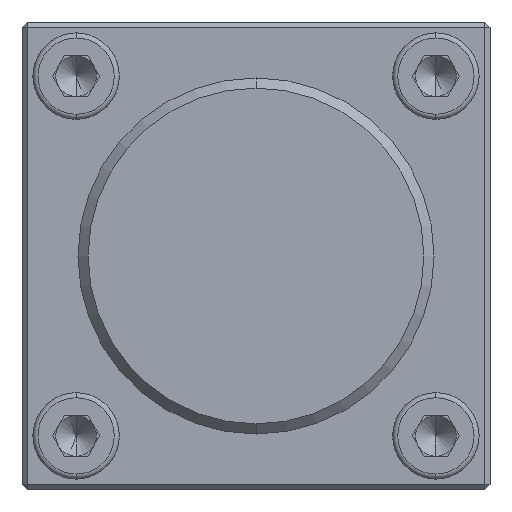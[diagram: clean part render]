
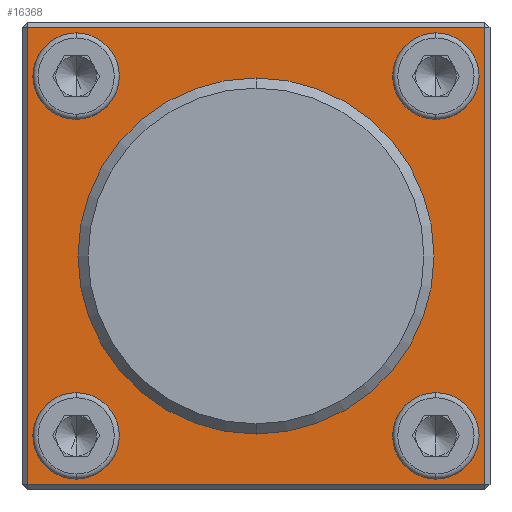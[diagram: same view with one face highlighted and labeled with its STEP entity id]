
A CAD part, left-side view. The second image highlights one B-rep face of the part: STEP entity #16368.
In plain terms, the highlighted planar face has unit normal (-1, 0, 0).
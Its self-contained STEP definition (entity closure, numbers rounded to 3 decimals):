
#11910 = VERTEX_POINT ( 'NONE', #38475 ) ;
#11911 = VERTEX_POINT ( 'NONE', #38476 ) ;
#11914 = VERTEX_POINT ( 'NONE', #38479 ) ;
#11915 = VERTEX_POINT ( 'NONE', #38480 ) ;
#11918 = VERTEX_POINT ( 'NONE', #38483 ) ;
#11919 = VERTEX_POINT ( 'NONE', #38484 ) ;
#11922 = VERTEX_POINT ( 'NONE', #38487 ) ;
#11923 = VERTEX_POINT ( 'NONE', #38488 ) ;
#11941 = VERTEX_POINT ( 'NONE', #38506 ) ;
#11942 = VERTEX_POINT ( 'NONE', #38507 ) ;
#11949 = VERTEX_POINT ( 'NONE', #38514 ) ;
#11950 = VERTEX_POINT ( 'NONE', #38515 ) ;
#11952 = VERTEX_POINT ( 'NONE', #38517 ) ;
#11954 = VERTEX_POINT ( 'NONE', #38519 ) ;
#12778 = EDGE_LOOP ( 'NONE', ( #17453, #17454 ) ) ;
#12779 = EDGE_LOOP ( 'NONE', ( #17456, #17455 ) ) ;
#12780 = EDGE_LOOP ( 'NONE', ( #17458, #17457 ) ) ;
#12781 = EDGE_LOOP ( 'NONE', ( #17460, #17459 ) ) ;
#12782 = EDGE_LOOP ( 'NONE', ( #17462, #17461 ) ) ;
#12783 = EDGE_LOOP ( 'NONE', ( #17464, #17463, #17465, #17451 ) ) ;
#16368 = ADVANCED_FACE ( 'NONE', ( #42786, #42789, #42791, #42792, #42794, #42795 ), #44255, .T. ) ;
#16741 = EDGE_CURVE ( 'NONE', #11910, #11911, #19579, .T. ) ;
#16745 = EDGE_CURVE ( 'NONE', #11914, #11915, #19581, .T. ) ;
#16749 = EDGE_CURVE ( 'NONE', #11918, #11919, #19583, .T. ) ;
#16753 = EDGE_CURVE ( 'NONE', #11922, #11923, #19585, .T. ) ;
#16777 = EDGE_CURVE ( 'NONE', #11941, #11942, #19595, .T. ) ;
#16785 = EDGE_CURVE ( 'NONE', #11950, #11949, #46438, .T. ) ;
#16788 = EDGE_CURVE ( 'NONE', #11952, #11950, #46447, .T. ) ;
#16791 = EDGE_CURVE ( 'NONE', #11954, #11952, #46456, .T. ) ;
#16794 = EDGE_CURVE ( 'NONE', #11949, #11954, #46465, .T. ) ;
#16795 = EDGE_CURVE ( 'NONE', #11911, #11910, #19598, .T. ) ;
#16796 = EDGE_CURVE ( 'NONE', #11915, #11914, #19599, .T. ) ;
#16797 = EDGE_CURVE ( 'NONE', #11919, #11918, #19600, .T. ) ;
#16798 = EDGE_CURVE ( 'NONE', #11923, #11922, #19601, .T. ) ;
#16799 = EDGE_CURVE ( 'NONE', #11942, #11941, #19602, .T. ) ;
#17451 = ORIENTED_EDGE ( 'NONE', *, *, #16788, .T. ) ;
#17453 = ORIENTED_EDGE ( 'NONE', *, *, #16741, .F. ) ;
#17454 = ORIENTED_EDGE ( 'NONE', *, *, #16795, .F. ) ;
#17455 = ORIENTED_EDGE ( 'NONE', *, *, #16796, .F. ) ;
#17456 = ORIENTED_EDGE ( 'NONE', *, *, #16745, .F. ) ;
#17457 = ORIENTED_EDGE ( 'NONE', *, *, #16797, .F. ) ;
#17458 = ORIENTED_EDGE ( 'NONE', *, *, #16749, .F. ) ;
#17459 = ORIENTED_EDGE ( 'NONE', *, *, #16798, .F. ) ;
#17460 = ORIENTED_EDGE ( 'NONE', *, *, #16753, .F. ) ;
#17461 = ORIENTED_EDGE ( 'NONE', *, *, #16799, .F. ) ;
#17462 = ORIENTED_EDGE ( 'NONE', *, *, #16777, .F. ) ;
#17463 = ORIENTED_EDGE ( 'NONE', *, *, #16794, .T. ) ;
#17464 = ORIENTED_EDGE ( 'NONE', *, *, #16785, .T. ) ;
#17465 = ORIENTED_EDGE ( 'NONE', *, *, #16791, .T. ) ;
#19579 = CIRCLE ( 'NONE', #43128, 2.75 ) ;
#19581 = CIRCLE ( 'NONE', #43132, 2.75 ) ;
#19583 = CIRCLE ( 'NONE', #43136, 2.75 ) ;
#19585 = CIRCLE ( 'NONE', #43139, 2.75 ) ;
#19595 = CIRCLE ( 'NONE', #43163, 17.5 ) ;
#19598 = CIRCLE ( 'NONE', #43180, 2.75 ) ;
#19599 = CIRCLE ( 'NONE', #43165, 2.75 ) ;
#19600 = CIRCLE ( 'NONE', #43168, 2.75 ) ;
#19601 = CIRCLE ( 'NONE', #43183, 2.75 ) ;
#19602 = CIRCLE ( 'NONE', #43185, 17.5 ) ;
#38475 = CARTESIAN_POINT ( 'NONE',  ( -10.3, 17.68, 14.93 ) ) ;
#38476 = CARTESIAN_POINT ( 'NONE',  ( -10.3, 17.68, 20.43 ) ) ;
#38479 = CARTESIAN_POINT ( 'NONE',  ( -10.3, 17.68, -20.43 ) ) ;
#38480 = CARTESIAN_POINT ( 'NONE',  ( -10.3, 17.68, -14.93 ) ) ;
#38483 = CARTESIAN_POINT ( 'NONE',  ( -10.3, -17.68, -20.43 ) ) ;
#38484 = CARTESIAN_POINT ( 'NONE',  ( -10.3, -17.68, -14.93 ) ) ;
#38487 = CARTESIAN_POINT ( 'NONE',  ( -10.3, -17.68, 14.93 ) ) ;
#38488 = CARTESIAN_POINT ( 'NONE',  ( -10.3, -17.68, 20.43 ) ) ;
#38506 = CARTESIAN_POINT ( 'NONE',  ( -10.3, 0., 17.5 ) ) ;
#38507 = CARTESIAN_POINT ( 'NONE',  ( -10.3, 0., -17.5 ) ) ;
#38514 = CARTESIAN_POINT ( 'NONE',  ( -10.3, -22.5, -22.5 ) ) ;
#38515 = CARTESIAN_POINT ( 'NONE',  ( -10.3, 22.5, -22.5 ) ) ;
#38517 = CARTESIAN_POINT ( 'NONE',  ( -10.3, 22.5, 22.5 ) ) ;
#38519 = CARTESIAN_POINT ( 'NONE',  ( -10.3, -22.5, 22.5 ) ) ;
#42786 = FACE_BOUND ( 'NONE', #12778, .T. ) ;
#42789 = FACE_BOUND ( 'NONE', #12779, .T. ) ;
#42790 = AXIS2_PLACEMENT_3D ( 'NONE', #44256, #44257, #44258 ) ;
#42791 = FACE_BOUND ( 'NONE', #12780, .T. ) ;
#42792 = FACE_BOUND ( 'NONE', #12781, .T. ) ;
#42794 = FACE_BOUND ( 'NONE', #12782, .T. ) ;
#42795 = FACE_OUTER_BOUND ( 'NONE', #12783, .T. ) ;
#43128 = AXIS2_PLACEMENT_3D ( 'NONE', #46302, #46306, #46307 ) ;
#43132 = AXIS2_PLACEMENT_3D ( 'NONE', #46311, #46318, #46319 ) ;
#43136 = AXIS2_PLACEMENT_3D ( 'NONE', #46323, #46330, #46331 ) ;
#43139 = AXIS2_PLACEMENT_3D ( 'NONE', #46335, #46342, #46343 ) ;
#43163 = AXIS2_PLACEMENT_3D ( 'NONE', #46407, #46414, #46415 ) ;
#43165 = AXIS2_PLACEMENT_3D ( 'NONE', #46470, #46471, #46472 ) ;
#43168 = AXIS2_PLACEMENT_3D ( 'NONE', #46473, #46474, #46475 ) ;
#43173 = VECTOR ( 'NONE', #46440, 1000. ) ;
#43176 = VECTOR ( 'NONE', #46449, 1000. ) ;
#43179 = VECTOR ( 'NONE', #46458, 1000. ) ;
#43180 = AXIS2_PLACEMENT_3D ( 'NONE', #46428, #46468, #46469 ) ;
#43183 = AXIS2_PLACEMENT_3D ( 'NONE', #46476, #46477, #46478 ) ;
#43184 = VECTOR ( 'NONE', #46467, 1000. ) ;
#43185 = AXIS2_PLACEMENT_3D ( 'NONE', #46479, #46480, #46481 ) ;
#44255 = PLANE ( 'NONE',  #42790 ) ;
#44256 = CARTESIAN_POINT ( 'NONE',  ( -10.3, 35., 0. ) ) ;
#44257 = DIRECTION ( 'NONE',  ( -1., 0., 0. ) ) ;
#44258 = DIRECTION ( 'NONE',  ( 0., 0., 1. ) ) ;
#46302 = CARTESIAN_POINT ( 'NONE',  ( -10.3, 17.68, 17.68 ) ) ;
#46306 = DIRECTION ( 'NONE',  ( -1., 0., 0. ) ) ;
#46307 = DIRECTION ( 'NONE',  ( 0., 0., 1. ) ) ;
#46311 = CARTESIAN_POINT ( 'NONE',  ( -10.3, 17.68, -17.68 ) ) ;
#46318 = DIRECTION ( 'NONE',  ( -1., 0., 0. ) ) ;
#46319 = DIRECTION ( 'NONE',  ( 0., 0., 1. ) ) ;
#46323 = CARTESIAN_POINT ( 'NONE',  ( -10.3, -17.68, -17.68 ) ) ;
#46330 = DIRECTION ( 'NONE',  ( -1., 0., 0. ) ) ;
#46331 = DIRECTION ( 'NONE',  ( 0., 0., 1. ) ) ;
#46335 = CARTESIAN_POINT ( 'NONE',  ( -10.3, -17.68, 17.68 ) ) ;
#46342 = DIRECTION ( 'NONE',  ( -1., 0., 0. ) ) ;
#46343 = DIRECTION ( 'NONE',  ( 0., 0., 1. ) ) ;
#46407 = CARTESIAN_POINT ( 'NONE',  ( -10.3, 0., 0. ) ) ;
#46414 = DIRECTION ( 'NONE',  ( -1., 0., 0. ) ) ;
#46415 = DIRECTION ( 'NONE',  ( 0., 0., 1. ) ) ;
#46428 = CARTESIAN_POINT ( 'NONE',  ( -10.3, 17.68, 17.68 ) ) ;
#46438 = LINE ( 'NONE', #46439, #43173 ) ;
#46439 = CARTESIAN_POINT ( 'NONE',  ( -10.3, -22.5, -22.5 ) ) ;
#46440 = DIRECTION ( 'NONE',  ( 0., -1., 0. ) ) ;
#46447 = LINE ( 'NONE', #46448, #43176 ) ;
#46448 = CARTESIAN_POINT ( 'NONE',  ( -10.3, 22.5, 22.5 ) ) ;
#46449 = DIRECTION ( 'NONE',  ( 0., 0., -1. ) ) ;
#46456 = LINE ( 'NONE', #46457, #43179 ) ;
#46457 = CARTESIAN_POINT ( 'NONE',  ( -10.3, -22.5, 22.5 ) ) ;
#46458 = DIRECTION ( 'NONE',  ( 0., 1., 0. ) ) ;
#46465 = LINE ( 'NONE', #46466, #43184 ) ;
#46466 = CARTESIAN_POINT ( 'NONE',  ( -10.3, -22.5, 22.5 ) ) ;
#46467 = DIRECTION ( 'NONE',  ( 0., 0., 1. ) ) ;
#46468 = DIRECTION ( 'NONE',  ( -1., 0., 0. ) ) ;
#46469 = DIRECTION ( 'NONE',  ( 0., 0., 1. ) ) ;
#46470 = CARTESIAN_POINT ( 'NONE',  ( -10.3, 17.68, -17.68 ) ) ;
#46471 = DIRECTION ( 'NONE',  ( -1., 0., 0. ) ) ;
#46472 = DIRECTION ( 'NONE',  ( 0., 0., 1. ) ) ;
#46473 = CARTESIAN_POINT ( 'NONE',  ( -10.3, -17.68, -17.68 ) ) ;
#46474 = DIRECTION ( 'NONE',  ( -1., 0., 0. ) ) ;
#46475 = DIRECTION ( 'NONE',  ( 0., 0., 1. ) ) ;
#46476 = CARTESIAN_POINT ( 'NONE',  ( -10.3, -17.68, 17.68 ) ) ;
#46477 = DIRECTION ( 'NONE',  ( -1., 0., 0. ) ) ;
#46478 = DIRECTION ( 'NONE',  ( 0., 0., 1. ) ) ;
#46479 = CARTESIAN_POINT ( 'NONE',  ( -10.3, 0., 0. ) ) ;
#46480 = DIRECTION ( 'NONE',  ( -1., 0., 0. ) ) ;
#46481 = DIRECTION ( 'NONE',  ( 0., 0., 1. ) ) ;
